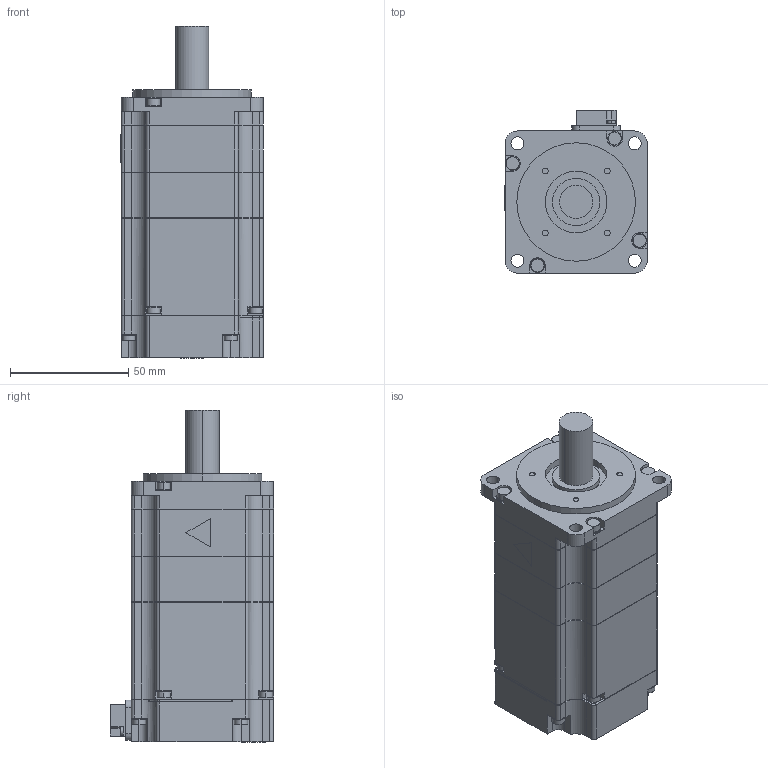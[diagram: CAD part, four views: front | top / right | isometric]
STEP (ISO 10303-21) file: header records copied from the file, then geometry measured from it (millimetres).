
FILE_DESCRIPTION (( 'STEP AP203' ), '1' );
FILE_NAME ('sgm7a_02a_a2c.STEP', '2015-12-21T22:34:19', ( '匠エンジニアリング山之内' ), ( 'TAKUMI-Engniaring' ), 'SwSTEP 2.0', 'SolidWorks 2006303', '' );
FILE_SCHEMA (( 'CONFIG_CONTROL_DESIGN' ));
Length unit declared in the file: millimetre
Products named in the file (1): sgm7a_02a_a2c
Bounding box: 60.1 x 68.8 x 140.1 mm (x, y, z)
Volume: 360037.1 mm3; surface area: 38420.1 mm2
Topology: 1 solids, 1 shells, 503 faces, 1322 edges, 876 vertices
Faces by surface type: plane 278, cylinder 225
Entity records: 15719 total; most frequent: DIRECTION 2796, CARTESIAN_POINT 2716, ORIENTED_EDGE 2644, EDGE_CURVE 1322, AXIS2_PLACEMENT_3D 972, VERTEX_POINT 876, LINE 852, VECTOR 852
